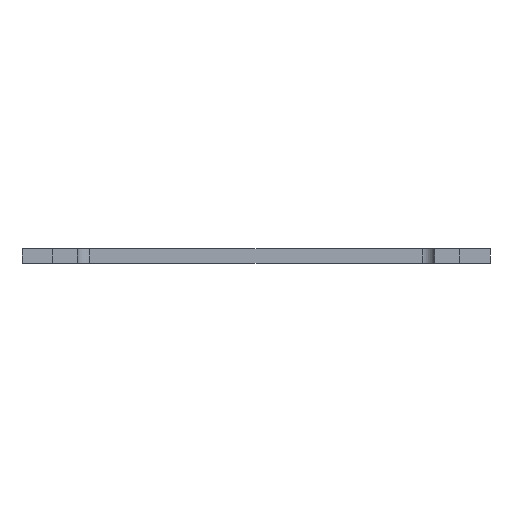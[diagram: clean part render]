
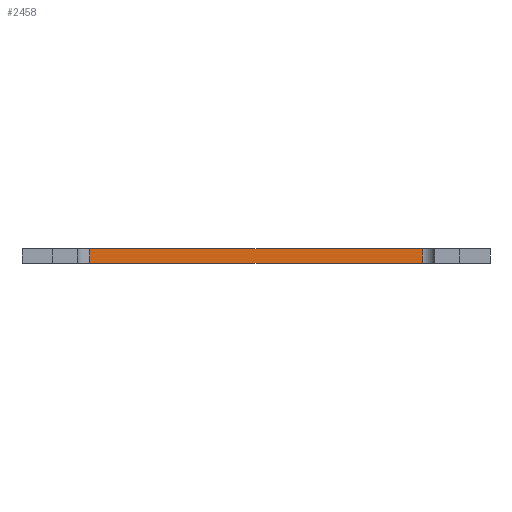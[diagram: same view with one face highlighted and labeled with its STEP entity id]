
A CAD part, front view. The second image highlights one B-rep face of the part: STEP entity #2458.
In plain terms, the highlighted planar face has unit normal (0, -1, 0).
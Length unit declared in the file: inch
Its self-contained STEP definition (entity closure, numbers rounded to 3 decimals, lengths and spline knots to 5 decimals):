
#11 = DIRECTION ( 'NONE',  ( 1., 0., 0. ) ) ;
#111 = DIRECTION ( 'NONE',  ( 1., 0., 0. ) ) ;
#210 = VERTEX_POINT ( 'NONE', #920 ) ;
#223 = DIRECTION ( 'NONE',  ( 0., 0., 1. ) ) ;
#285 = LINE ( 'NONE', #975, #2666 ) ;
#390 = FACE_OUTER_BOUND ( 'NONE', #1169, .T. ) ;
#475 = CARTESIAN_POINT ( 'NONE',  ( 0.675, -0.44193, -0.06 ) ) ;
#569 = DIRECTION ( 'NONE',  ( 0., 0., 1. ) ) ;
#627 = DIRECTION ( 'NONE',  ( 0., -1., 0. ) ) ;
#677 = LINE ( 'NONE', #2355, #2863 ) ;
#862 = CARTESIAN_POINT ( 'NONE',  ( -0.675, -0.44193, -0.06 ) ) ;
#920 = CARTESIAN_POINT ( 'NONE',  ( 0.675, -0.44193, 0. ) ) ;
#936 = VERTEX_POINT ( 'NONE', #2538 ) ;
#975 = CARTESIAN_POINT ( 'NONE',  ( -0.675, -0.44193, -0.06 ) ) ;
#1047 = ORIENTED_EDGE ( 'NONE', *, *, #1735, .T. ) ;
#1169 = EDGE_LOOP ( 'NONE', ( #2514, #2288, #2275, #1047 ) ) ;
#1220 = EDGE_CURVE ( 'NONE', #2306, #936, #2297, .T. ) ;
#1652 = AXIS2_PLACEMENT_3D ( 'NONE', #2420, #627, #111 ) ;
#1733 = LINE ( 'NONE', #2292, #3132 ) ;
#1735 = EDGE_CURVE ( 'NONE', #936, #210, #677, .T. ) ;
#1745 = VECTOR ( 'NONE', #2240, 39.37008 ) ;
#1888 = PLANE ( 'NONE',  #1652 ) ;
#2237 = EDGE_CURVE ( 'NONE', #3146, #210, #1733, .T. ) ;
#2240 = DIRECTION ( 'NONE',  ( 1., 0., 0. ) ) ;
#2275 = ORIENTED_EDGE ( 'NONE', *, *, #1220, .T. ) ;
#2288 = ORIENTED_EDGE ( 'NONE', *, *, #2586, .F. ) ;
#2292 = CARTESIAN_POINT ( 'NONE',  ( 0.675, -0.44193, 0. ) ) ;
#2297 = LINE ( 'NONE', #475, #1745 ) ;
#2306 = VERTEX_POINT ( 'NONE', #862 ) ;
#2355 = CARTESIAN_POINT ( 'NONE',  ( 0.675, -0.44193, -0.06 ) ) ;
#2420 = CARTESIAN_POINT ( 'NONE',  ( 0.675, -0.44193, -0.06 ) ) ;
#2458 = ADVANCED_FACE ( 'NONE', ( #390 ), #1888, .T. ) ;
#2514 = ORIENTED_EDGE ( 'NONE', *, *, #2237, .F. ) ;
#2538 = CARTESIAN_POINT ( 'NONE',  ( 0.675, -0.44193, -0.06 ) ) ;
#2586 = EDGE_CURVE ( 'NONE', #2306, #3146, #285, .T. ) ;
#2666 = VECTOR ( 'NONE', #223, 39.37008 ) ;
#2853 = CARTESIAN_POINT ( 'NONE',  ( -0.675, -0.44193, 0. ) ) ;
#2863 = VECTOR ( 'NONE', #569, 39.37008 ) ;
#3132 = VECTOR ( 'NONE', #11, 39.37008 ) ;
#3146 = VERTEX_POINT ( 'NONE', #2853 ) ;
